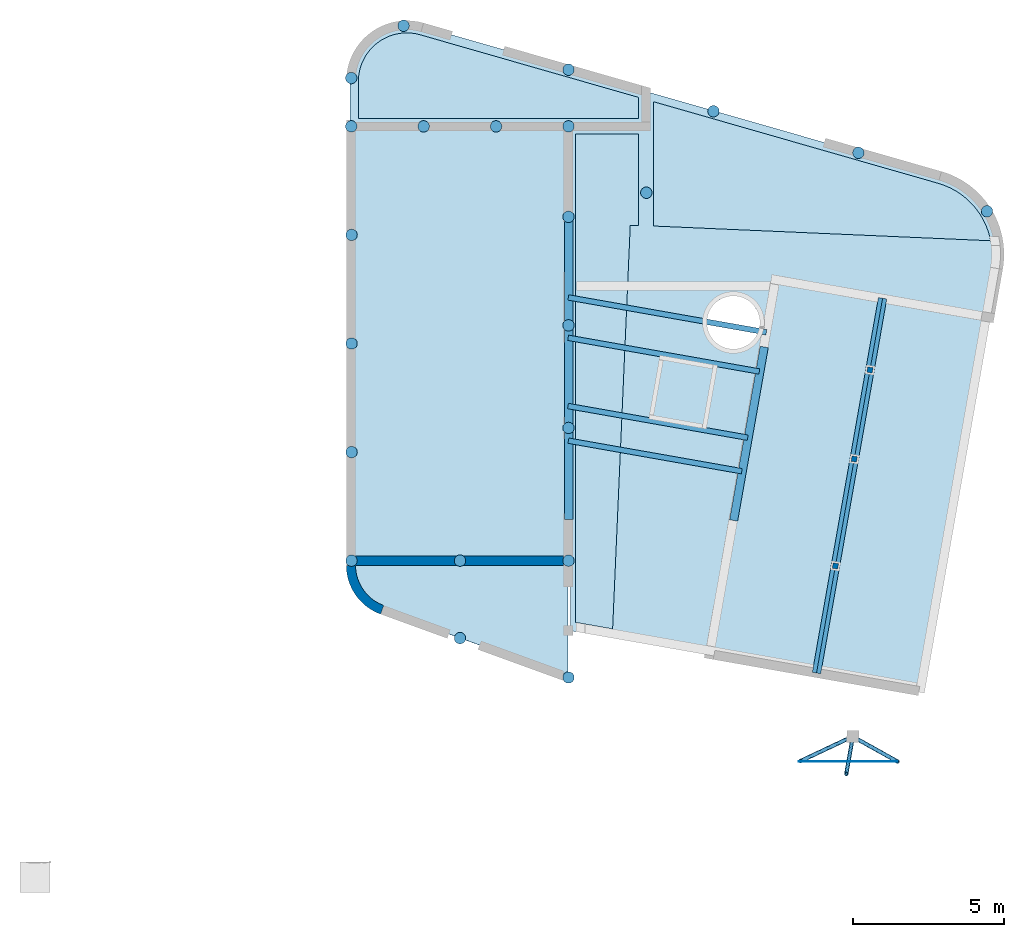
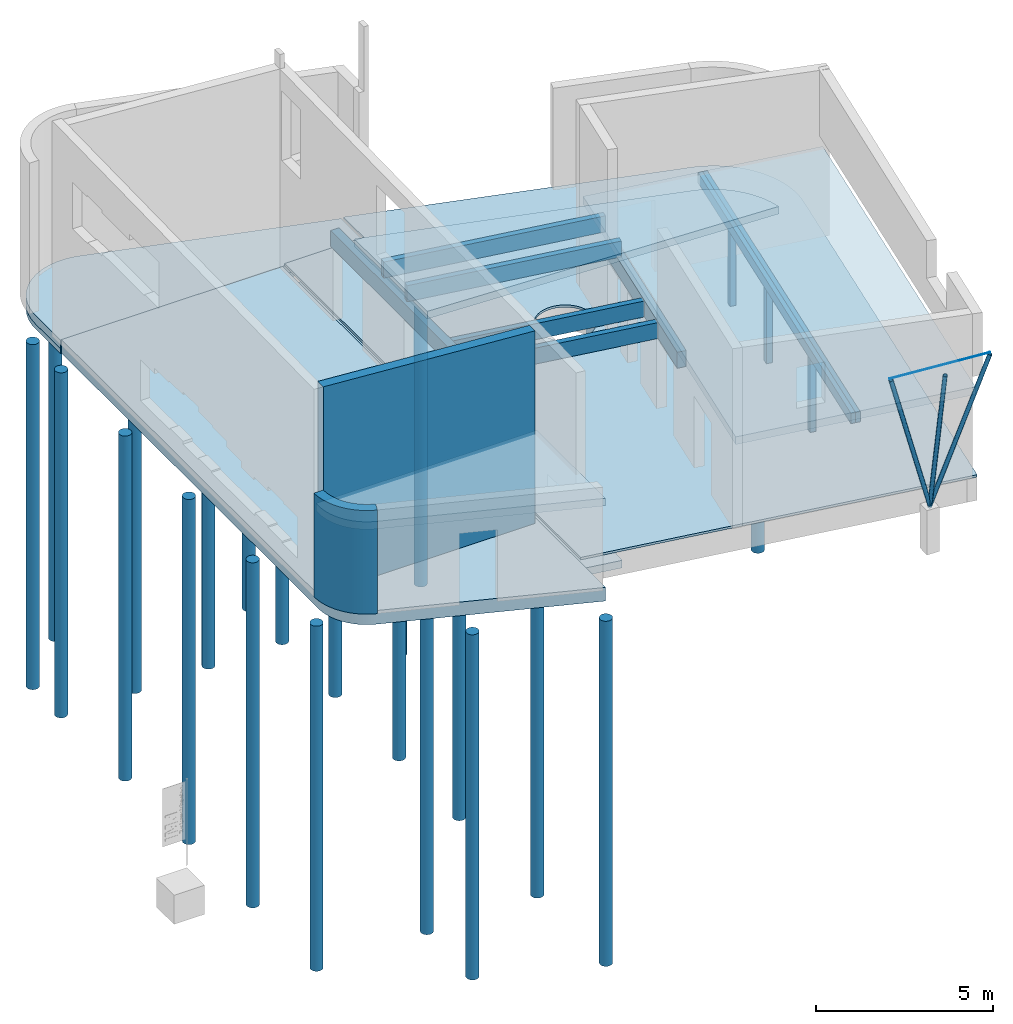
# One storey, part 1 of 3: 22 piles, 12 beams, 8 slabs, 3 columns, 2 walls, 1 opening.
"""IFC2X3 building model written with IfcOpenShell, lengths in millimetres."""

from ifc_helpers import new_model, entity, si_unit, converted_unit, derived_unit, direction, frame, frame_2d, origin, origin_2d_with_axis, place, context, subcontext, project, spatial, polyline, circle_curve, parameter, trimmed, segment, composite_curve, rectangle, circle, hollow_circle, outline, extrude, clip, bounded_halfspace, source, transform, mapped, material, material_list, layer, layer_set, layer_usage, type_object, type_shapes, element, save


model = new_model("IFC2X3")

# Units and contexts
model_context = context("Model", 3, precision=0.01, world=origin(), true_north=direction((6.12303176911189e-17, 1.0)))
context_of_model = context(None, 3, precision=0.01, world=origin(), true_north=direction((6.12303176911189e-17, 1.0)))
body_context = subcontext(model_context, "Body", "Model", "MODEL_VIEW")
ifc_project = project(units=[si_unit("LENGTHUNIT", "METRE", prefix="MILLI"), si_unit("AREAUNIT", "SQUARE_METRE"), si_unit("VOLUMEUNIT", "CUBIC_METRE"), converted_unit("PLANEANGLEUNIT", "DEGREE", entity("IfcRatioMeasure", 0.0174532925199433), si_unit("PLANEANGLEUNIT", "RADIAN"), dimensions=[0, 0, 0, 0, 0, 0, 0]), si_unit("MASSUNIT", "GRAM", prefix="KILO"), derived_unit("MASSDENSITYUNIT", [(si_unit("MASSUNIT", "GRAM", prefix="KILO"), 1), (si_unit("LENGTHUNIT", "METRE"), -3)]), derived_unit("MOMENTOFINERTIAUNIT", [(si_unit("LENGTHUNIT", "METRE"), 4)]), si_unit("TIMEUNIT", "SECOND"), si_unit("FREQUENCYUNIT", "HERTZ"), si_unit("THERMODYNAMICTEMPERATUREUNIT", "DEGREE_CELSIUS"), derived_unit("THERMALTRANSMITTANCEUNIT", [(si_unit("MASSUNIT", "GRAM", prefix="KILO"), 1), (si_unit("THERMODYNAMICTEMPERATUREUNIT", "KELVIN"), -1), (si_unit("TIMEUNIT", "SECOND"), -3)]), derived_unit("VOLUMETRICFLOWRATEUNIT", [(si_unit("LENGTHUNIT", "METRE"), 3), (si_unit("TIMEUNIT", "SECOND"), -1)]), si_unit("ELECTRICCURRENTUNIT", "AMPERE"), si_unit("ELECTRICVOLTAGEUNIT", "VOLT"), si_unit("POWERUNIT", "WATT"), si_unit("FORCEUNIT", "NEWTON", prefix="KILO"), si_unit("ILLUMINANCEUNIT", "LUX"), si_unit("LUMINOUSFLUXUNIT", "LUMEN"), si_unit("LUMINOUSINTENSITYUNIT", "CANDELA"), derived_unit("USERDEFINED", [(si_unit("MASSUNIT", "GRAM", prefix="KILO"), -1), (si_unit("LENGTHUNIT", "METRE"), -2), (si_unit("TIMEUNIT", "SECOND"), 3), (si_unit("LUMINOUSFLUXUNIT", "LUMEN"), 1)]), derived_unit("LINEARVELOCITYUNIT", [(si_unit("LENGTHUNIT", "METRE"), 1), (si_unit("TIMEUNIT", "SECOND"), -1)]), si_unit("PRESSUREUNIT", "PASCAL"), derived_unit("USERDEFINED", [(si_unit("LENGTHUNIT", "METRE"), -2), (si_unit("MASSUNIT", "GRAM", prefix="KILO"), 1), (si_unit("TIMEUNIT", "SECOND"), -2)]), derived_unit("LINEARFORCEUNIT", [(si_unit("MASSUNIT", "GRAM", prefix="KILO"), 1), (si_unit("LENGTHUNIT", "METRE"), 1), (si_unit("TIMEUNIT", "SECOND"), -2), (si_unit("LENGTHUNIT", "METRE"), -1)]), derived_unit("PLANARFORCEUNIT", [(si_unit("MASSUNIT", "GRAM", prefix="KILO"), 1), (si_unit("LENGTHUNIT", "METRE"), 1), (si_unit("TIMEUNIT", "SECOND"), -2), (si_unit("LENGTHUNIT", "METRE"), -2)])], contexts=[model_context, context_of_model])

# Site, building, storey
site_placement = place(None, origin())
site = spatial("IfcSite", under=ifc_project, at=site_placement, Name="Default", CompositionType="ELEMENT")
building_placement = place(site_placement, origin())
building = spatial("IfcBuilding", under=site, at=building_placement, Name="IFc", CompositionType="ELEMENT")
storey_placement = place(building_placement, frame((0.0, 0.0, -70.0)))
storey = spatial("IfcBuildingStorey", under=building, at=storey_placement, Name="00 begane grond b.k. ruwe vloer", CompositionType="ELEMENT", Elevation=-70.0)

# Piles
ifc_material_1 = material(Name="IMd_beton_IHWG")
shared_shape_1 = source(origin(), body_context, "Body", "SweptSolid", [
    extrude(circle(Radius=190.0, at=frame_2d((3.25983355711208e-29, -2.85239492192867e-13), x_axis=(1.0, 0.0))), frame((0.0, 0.0, -13000.0), z_axis=(0.0, 0.0, 1.0), x_axis=(-1.0, 0.0, 0.0)), (0.0, 0.0, 1.0), 11889.9999999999),
])
for number, where in (
    (1, (9984.0, 24397.0, 70.0)),
    (2, (17187.0, 24397.0, 70.0)),
    (3, (17187.0, 26276.860835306, 70.0)),
    (4, (17187.0, 9997.0, 70.0)),
    (5, (9993.0, 9997.0, 70.0)),
    (6, (13590.0, 9997.0, 70.0)),
    (7, (17187.0, 6122.47168214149, 70.0)),
    (8, (19768.6696056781, 22197.0, 70.0)),
    (9, (31063.5922916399, 21580.8594844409, 70.0)),
    (10, (21993.3084796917, 24898.6740562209, 70.0)),
    (11, (26799.6169593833, 23520.4872771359, 70.0)),
    (12, (12385.0, 24397.0, 70.0)),
    (13, (14786.0, 24397.0, 70.0)),
    (14, (13590.0, 7428.04132245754, 70.0)),
    (15, (9984.0, 25998.7181915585, 70.0)),
    (16, (11719.4566353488, 27734.1748269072, 70.0)),
    (17, (17187.0, 14397.0, 70.0)),
    (18, (9993.0, 13597.0, 70.0)),
    (19, (17187.0, 17797.0, 70.0)),
    (20, (9993.0, 17197.0, 70.0)),
    (21, (17187.0, 21397.0, 70.0)),
    (22, (9993.0, 20797.0, 70.0)),
):
    element("IfcPile", number, at=place(storey_placement, frame(where)), inside=storey, material=ifc_material_1, Name="NLRS_17_SFO_TLB_funderingspaal rond_gen_ISR:Type 01_ø380/450_Fd=900kN", ObjectType="NLRS_17_SFO_TLB_funderingspaal rond_gen_ISR:Type 01_ø380/450_Fd=900kN", PredefinedType="NOTDEFINED", context=body_context, shape_type="MappedRepresentation", body=[
        mapped(shared_shape_1, transform((0.0, 0.0, 0.0), scale=1.0)),
    ])

# Columns
ifc_material_2 = material(Name="ISR_Hout")
ifc_material_3 = material(Name="<Unnamed>")
ifc_material_list = material_list([ifc_material_3, ifc_material_2])
column_type = type_object("IfcColumnType", Name="NLRS_28_SC_TLB_kolom vierkant hout_generiek_ISR:180x180 (GL)", PredefinedType="COLUMN", material=ifc_material_list)
shared_shape_2 = source(origin(), body_context, "Body", "SweptSolid", [
    extrude(rectangle(XDim=180.0, YDim=180.0, at=origin_2d_with_axis()), frame((0.0, 0.0, 0.0), z_axis=(0.0, 0.0, 1.0), x_axis=(0.0, -1.0, 0.0)), (0.0, 0.0, 1.0), 2632.00000000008),
])
type_shapes(column_type, [shared_shape_2])
for number, where, z_axis, x_axis, name in (
    (23, (26036.8769212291, 9820.45763454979, 70.0), (0.0, 0.0, 1.0), (0.984807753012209, -0.173648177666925, 0.0), "NLRS_28_SC_TLB_kolom vierkant hout_generiek_ISR:180x180 (GL)"),
    (24, (26662.0103603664, 13365.7655427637, 70.0), (0.0, 0.0, 1.0), (0.984807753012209, -0.173648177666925, 0.0), "NLRS_28_SC_TLB_kolom vierkant hout_generiek_ISR:180x180 (GL)"),
    (25, (27182.9548933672, 16320.1888018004, 70.0), (0.0, 0.0, 1.0), (0.984807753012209, -0.173648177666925, 0.0), "NLRS_28_SC_TLB_kolom vierkant hout_generiek_ISR:180x180 (GL)"),
):
    element("IfcColumn", number, at=place(storey_placement, frame(where, z_axis=z_axis, x_axis=x_axis)), inside=storey, type_object=column_type, material=ifc_material_2, Name=name, ObjectType="NLRS_28_SC_TLB_kolom vierkant hout_generiek_ISR:180x180 (GL)", context=body_context, shape_type="MappedRepresentation", body=[
        mapped(shared_shape_2, transform((0.0, 0.0, 0.0), scale=1.0)),
    ])

# Beams
ifc_material_4 = material(Name="IMd_hout")
beam_type_1 = type_object("IfcBeamType", Name="NLRS_28_SF_LIB_balk hout gelamineerd_generiek_ISR:HB 180x550", PredefinedType="NOTDEFINED")
beam_1_placement = place(storey_placement, frame((17178.0, 15123.5488943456, 3070.0), z_axis=(0.0, 0.0, 1.0), x_axis=(0.984807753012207, -0.173648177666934, 0.0)))
element("IfcBeam", 26, at=beam_1_placement, inside=storey, type_object=beam_type_1, material=ifc_material_4, Name="NLRS_28_SF_LIB_balk hout gelamineerd_generiek_ISR:HB 180x550", ObjectType="NLRS_28_SF_LIB_balk hout gelamineerd_generiek_ISR:HB 180x550", context=body_context, shape_type="SweptSolid", body=[
    extrude(rectangle(XDim=550.0, YDim=179.999999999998, at=frame_2d((2.55795384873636e-13, 0.0), x_axis=(1.0, 0.0))), frame((-6.7245769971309, 0.0, -295.0), z_axis=(1.0, 0.0, 0.0), x_axis=(0.0, 0.0, -1.0)), (0.0, 0.0, 1.0), 6048.88738526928),
])
beam_2_placement = place(storey_placement, frame((17178.0, 13976.9142265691, 3070.0), z_axis=(0.0, 0.0, 1.0), x_axis=(0.984807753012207, -0.173648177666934, 0.0)))
element("IfcBeam", 27, at=beam_2_placement, inside=storey, type_object=beam_type_1, material=ifc_material_4, Name="NLRS_28_SF_LIB_balk hout gelamineerd_generiek_ISR:HB 180x550", ObjectType="NLRS_28_SF_LIB_balk hout gelamineerd_generiek_ISR:HB 180x550", context=body_context, shape_type="SweptSolid", body=[
    extrude(rectangle(XDim=550.0, YDim=179.999999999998, at=frame_2d((2.55795384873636e-13, 0.0), x_axis=(1.0, 0.0))), frame((7.133167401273, 0.0, -295.0), z_axis=(1.0, 0.0, 0.0), x_axis=(0.0, 0.0, -1.0)), (0.0, 0.0, 1.0), 5835.91862036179),
])
beam_3_placement = place(storey_placement, frame((17178.0, 18726.0679760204, 3070.0), z_axis=(0.0, 0.0, 1.0), x_axis=(0.984807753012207, -0.173648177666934, 0.0)))
element("IfcBeam", 28, at=beam_3_placement, inside=storey, type_object=beam_type_1, material=ifc_material_4, Name="NLRS_28_SF_LIB_balk hout gelamineerd_generiek_ISR:HB 180x550", ObjectType="NLRS_28_SF_LIB_balk hout gelamineerd_generiek_ISR:HB 180x550", context=body_context, shape_type="SweptSolid", body=[
    extrude(rectangle(XDim=550.0, YDim=179.999999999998, at=frame_2d((2.55795384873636e-13, 0.0), x_axis=(1.0, 0.0))), frame((4.22572315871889, 0.0, 275.0), z_axis=(1.0, 0.0, 0.0), x_axis=(0.0, 0.0, -1.0)), (0.0, 0.0, 1.0), 6666.50795865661),
])
beam_4_placement = place(storey_placement, frame((17178.0, 17386.6706193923, 3070.0), z_axis=(0.0, 0.0, 1.0), x_axis=(0.984807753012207, -0.173648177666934, 0.0)))
element("IfcBeam", 29, at=beam_4_placement, inside=storey, type_object=beam_type_1, material=ifc_material_4, Name="NLRS_28_SF_LIB_balk hout gelamineerd_generiek_ISR:HB 180x550", ObjectType="NLRS_28_SF_LIB_balk hout gelamineerd_generiek_ISR:HB 180x550", context=body_context, shape_type="SweptSolid", body=[
    extrude(rectangle(XDim=550.0, YDim=180.0, at=frame_2d((2.55795384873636e-13, -1.06581410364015e-12), x_axis=(1.0, 0.0))), frame((-3.02019640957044, 0.0, 275.0), z_axis=(1.0, 0.0, 0.0), x_axis=(0.0, 0.0, -1.0)), (0.0, 0.0, 1.0), 6438.16996807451),
])
beam_type_2 = type_object("IfcBeamType", Name="NLRS_28_SF_LIB_balk hout gelamineerd_generiek_ISR:HB 140x350", PredefinedType="NOTDEFINED")
beam_5_placement = place(storey_placement, frame((27531.2949215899, 18698.8372047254, 3070.0), z_axis=(0.0, 0.0, 1.0), x_axis=(-0.173648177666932, -0.984807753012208, 0.0)))
element("IfcBeam", 30, at=beam_5_placement, inside=storey, type_object=beam_type_2, material=ifc_material_4, Name="NLRS_28_SF_LIB_balk hout gelamineerd_generiek_ISR:HB 140x350", ObjectType="NLRS_28_SF_LIB_balk hout gelamineerd_generiek_ISR:HB 140x350", context=body_context, shape_type="SweptSolid", body=[
    extrude(rectangle(XDim=350.0, YDim=140.000000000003, at=frame_2d((2.70006239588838e-13, -2.32347474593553e-12), x_axis=(1.0, 0.0))), frame((-11.096532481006, 0.0, -193.0), z_axis=(1.0, 0.0, 0.0), x_axis=(0.0, 0.0, -1.0)), (0.0, 0.0, 1.0), 12617.096532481),
])
beam_6_placement = place(storey_placement, frame((27669.1680070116, 18674.526459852, 3070.0), z_axis=(0.0, 0.0, 1.0), x_axis=(-0.173648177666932, -0.984807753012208, 0.0)))
element("IfcBeam", 31, at=beam_6_placement, inside=storey, type_object=beam_type_2, material=ifc_material_4, Name="NLRS_28_SF_LIB_balk hout gelamineerd_generiek_ISR:HB 140x350", ObjectType="NLRS_28_SF_LIB_balk hout gelamineerd_generiek_ISR:HB 140x350", context=body_context, shape_type="SweptSolid", body=[
    extrude(rectangle(XDim=350.0, YDim=140.000000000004, at=frame_2d((2.70006239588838e-13, -2.1387336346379e-12), x_axis=(1.0, 0.0))), frame((-11.0965324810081, 0.0, -193.0), z_axis=(1.0, 0.0, 0.0), x_axis=(0.0, 0.0, -1.0)), (0.0, 0.0, 1.0), 12617.096532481),
])
beam_type_3 = type_object("IfcBeamType", Name="NLRS_28_SF_LIB_balk hout gelamineerd_generiek_ISR:HB 271x550", PredefinedType="NOTDEFINED")
beam_7_placement = place(storey_placement, frame((17195.5000000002, 21908.5704000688, 3070.0), z_axis=(0.0, 0.0, 1.0), x_axis=(0.0, -1.0, 0.0)))
element("IfcBeam", 32, at=beam_7_placement, inside=storey, type_object=beam_type_3, material=ifc_material_4, Name="NLRS_28_SF_LIB_balk hout gelamineerd_generiek_ISR:HB 271x550", ObjectType="NLRS_28_SF_LIB_balk hout gelamineerd_generiek_ISR:HB 271x550", context=body_context, shape_type="SweptSolid", body=[
    extrude(rectangle(XDim=550.0, YDim=271.000000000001, at=frame_2d((-2.55795384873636e-13, -1.08002495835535e-12), x_axis=(1.0, 0.0))), frame((475.070400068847, 0.0, -293.0), z_axis=(1.0, 0.0, 0.0), x_axis=(0.0, 0.0, -1.0)), (0.0, 0.0, 1.0), 10067.0000003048),
])
beam_8_placement = place(storey_placement, frame((23982.4193626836, 18817.1214009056, 3070.0), z_axis=(0.0, 0.0, 1.0), x_axis=(-0.173648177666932, -0.984807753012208, 0.0)))
element("IfcBeam", 33, at=beam_8_placement, inside=storey, type_object=beam_type_3, material=ifc_material_4, Name="NLRS_28_SF_LIB_balk hout gelamineerd_generiek_ISR:HB 271x550", ObjectType="NLRS_28_SF_LIB_balk hout gelamineerd_generiek_ISR:HB 271x550", context=body_context, shape_type="SweptSolid", body=[
    extrude(rectangle(XDim=550.0, YDim=270.999999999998, at=frame_2d((-2.55795384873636e-13, 1.84741111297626e-13), x_axis=(1.0, 0.0))), frame((1761.23141961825, 0.0, -293.0), z_axis=(1.0, 0.0, 0.0), x_axis=(0.0, 0.0, -1.0)), (0.0, 0.0, 1.0), 5842.00000026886),
])
ifc_material_5 = material(Name="IMd_staal")
beam_type_4 = type_object("IfcBeamType", Name="NLRS_28_SF_LIB_balk buis_generiek_ISR:ø133x8", PredefinedType="NOTDEFINED")
beam_9_placement = place(storey_placement, frame((26635.0992597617, 4271.33329883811, 295.845912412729), z_axis=(0.999184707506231, -0.00925127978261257, 0.0392980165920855), x_axis=(-0.0403722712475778, -0.228962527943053, 0.972597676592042)))
element("IfcBeam", 34, at=beam_9_placement, inside=storey, type_object=beam_type_4, material=ifc_material_5, Name="NLRS_28_SF_LIB_balk buis_generiek_ISR:ø133x8", ObjectType="NLRS_28_SF_LIB_balk buis_generiek_ISR:ø133x8", context=body_context, shape_type="SweptSolid", body=[
    extrude(hollow_circle(Radius=66.5000000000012, WallThickness=8.0000000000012, at=origin_2d_with_axis()), frame((363.28505164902, 0.0, 0.0), z_axis=(1.0, 0.0, 0.0), x_axis=(0.0, 0.169027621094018, 0.985611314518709)), (0.0, 0.0, 1.0), 5524.48933970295),
])
beam_10_placement = place(storey_placement, frame((26604.3966613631, 4164.70654542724, 760.957610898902), z_axis=(0.952901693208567, -0.0455033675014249, 0.299846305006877), x_axis=(-0.303279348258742, -0.142971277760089, 0.942115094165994)))
element("IfcBeam", 35, at=beam_10_placement, inside=storey, type_object=beam_type_4, material=ifc_material_5, Name="NLRS_28_SF_LIB_balk buis_generiek_ISR:ø133x8", ObjectType="NLRS_28_SF_LIB_balk buis_generiek_ISR:ø133x8", context=body_context, shape_type="SweptSolid", body=[
    extrude(hollow_circle(Radius=66.5000000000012, WallThickness=8.0000000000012, at=frame_2d((4.90016868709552e-13, -2.16890641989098e-13), x_axis=(1.0, 0.0))), frame((-63.5428285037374, 0.0, 0.0), z_axis=(1.0, 0.0, 0.0), x_axis=(0.0, 0.894854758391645, 0.446357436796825)), (0.0, 0.0, 1.0), 5767.114348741),
])
beam_11_placement = place(storey_placement, frame((26605.9617348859, 4167.04232429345, 690.913737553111), z_axis=(0.962467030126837, 0.0426738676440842, -0.268022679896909), x_axis=(0.271398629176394, -0.151335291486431, 0.950494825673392)))
element("IfcBeam", 36, at=beam_11_placement, inside=storey, type_object=beam_type_4, material=ifc_material_5, Name="NLRS_28_SF_LIB_balk buis_generiek_ISR:ø133x8", ObjectType="NLRS_28_SF_LIB_balk buis_generiek_ISR:ø133x8", context=body_context, shape_type="SweptSolid", body=[
    extrude(hollow_circle(Radius=66.5000000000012, WallThickness=8.0000000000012, at=origin_2d_with_axis()), frame((20.0799682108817, 0.0, 0.0), z_axis=(1.0, 0.0, 0.0), x_axis=(0.0, -0.86093825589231, 0.508709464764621)), (0.0, 0.0, 1.0), 5470.83443942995),
])
beam_type_5 = type_object("IfcBeamType", Name="NLRS_28_SF_LIB_balk staaf_generiek_ISR:ø20", PredefinedType="NOTDEFINED")
beam_12_placement = place(storey_placement, frame((24823.9396735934, 3334.40897624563, 6204.56145820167), z_axis=(0.0728742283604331, 6.86161100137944e-05, 0.997341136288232), x_axis=(0.997340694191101, 0.000939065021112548, -0.0728742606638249)))
element("IfcBeam", 37, at=beam_12_placement, inside=storey, type_object=beam_type_5, material=ifc_material_5, Name="NLRS_28_SF_LIB_balk staaf_generiek_ISR:ø20", ObjectType="NLRS_28_SF_LIB_balk staaf_generiek_ISR:ø20", context=body_context, shape_type="SweptSolid", body=[
    extrude(circle(Radius=10.0000000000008, at=origin_2d_with_axis()), frame((0.0, 0.0, 0.0), z_axis=(1.0, 0.0, 0.0), x_axis=(0.0, -0.99991654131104, -0.0129193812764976)), (0.0, 0.0, 1.0), 3280.0),
])

# Slabs
ifc_material_6 = material(Name="IMd_underlayment")
ifc_layer_1 = layer(ifc_material_6, 18.0)
ifc_layer_2 = layer(ifc_material_4, 246.0)
ifc_layer_set_1 = layer_set([ifc_layer_1, ifc_layer_2], Name="Floor:NLRS_23_FL Houten_balklaag_71x246+underlayment_d=18")
ifc_layer_usage_1 = layer_usage(ifc_layer_set_1, "AXIS3", "POSITIVE", 0.0)
slab_type_1 = type_object("IfcSlabType", Name="Floor:NLRS_23_FL Houten_balklaag_71x246+underlayment_d=18", PredefinedType="FLOOR", material=ifc_layer_set_1)
slab_1_placement = place(storey_placement, origin())
element("IfcSlab", 38, at=slab_1_placement, inside=storey, type_object=slab_type_1, material=ifc_layer_usage_1, Name="Floor:NLRS_23_FL Houten_balklaag_71x246+underlayment_d=18", ObjectType="Floor:NLRS_23_FL Houten_balklaag_71x246+underlayment_d=18", PredefinedType="FLOOR", context=body_context, shape_type="SweptSolid", body=[
    extrude(rectangle(XDim=12600.0, YDim=7200.0, at=origin_2d_with_axis()), frame((26505.7270004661, 12479.4385650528, 3070.0), z_axis=(0.0, 0.0, -1.0), x_axis=(-0.173648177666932, -0.984807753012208, 0.0)), (0.0, 0.0, 1.0), 264.0),
])
ifc_layer_usage_2 = layer_usage(ifc_layer_set_1, "AXIS3", "POSITIVE", 0.0)
slab_type_2 = type_object("IfcSlabType", Name="Floor:NLRS_23_FL Houten_balklaag_71x246+underlayment_d=18", PredefinedType="FLOOR", material=ifc_layer_set_1)
slab_2_placement = place(storey_placement, origin())
element("IfcSlab", 39, at=slab_2_placement, inside=storey, type_object=slab_type_2, material=ifc_layer_usage_2, Name="Floor:NLRS_23_FL Houten_balklaag_71x246+underlayment_d=18", ObjectType="Floor:NLRS_23_FL Houten_balklaag_71x246+underlayment_d=18", PredefinedType="FLOOR", context=body_context, shape_type="SweptSolid", body=[
    extrude(outline(composite_curve([segment(polyline([(973.887794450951, -3081.93892615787), (1130.07446960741, -3081.93892615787)]), True, "CONTINUOUS"), segment(polyline([(1130.07446960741, -3081.93892615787), (1130.07446960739, 4118.06107384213)]), True, "CONTINUOUS"), segment(polyline([(1130.07446960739, 4118.06107384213), (-2743.56181453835, 4118.06107384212)]), True, "CONTINUOUS"), segment(polyline([(-2743.56181453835, 4118.06107384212), (-490.474919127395, -2072.24429536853)]), True, "CONTINUOUS"), segment(trimmed(circle_curve(frame_2d((977.706568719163, -1509.66873235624), x_axis=(-0.933794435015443, -0.357809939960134)), 1572.27483136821), [parameter(0.0)], [parameter(68.8950809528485)], True, "PARAMETER"), True, "CONTINUOUS")], self_intersect=False)), frame((13056.938926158, 8869.92553039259, 3070.0), z_axis=(0.0, 0.0, -1.0), x_axis=(0.0, 1.0, 0.0)), (0.0, 0.0, 1.0), 264.0),
])
ifc_material_7 = material(Name="IMd_beton_druklaag")
ifc_layer_3 = layer(ifc_material_7, 70.0)
ifc_material_8 = material(Name="IMd_beton_prefab_kanaalplaat")
ifc_layer_4 = layer(ifc_material_8, 260.0)
ifc_material_9 = material(Name="IMd_isolatie")
ifc_layer_5 = layer(ifc_material_9, 140.0)
ifc_layer_set_2 = layer_set([ifc_layer_3, ifc_layer_4, ifc_layer_5], Name="Floor:NLRS_23_FL Kanaalplaat_d=260_druklaag_d=70_geisoleerd_rc4")
ifc_layer_usage_3 = layer_usage(ifc_layer_set_2, "AXIS3", "POSITIVE", 0.0)
slab_type_3 = type_object("IfcSlabType", Name="Floor:NLRS_23_FL Kanaalplaat_d=260_druklaag_d=70_geisoleerd_rc4", PredefinedType="FLOOR", material=ifc_layer_set_2)
slab_3_placement = place(storey_placement, origin())
element("IfcSlab", 40, at=slab_3_placement, inside=storey, type_object=slab_type_3, material=ifc_layer_usage_3, Name="Floor:NLRS_23_FL Kanaalplaat_d=260_druklaag_d=70_geisoleerd_rc4", ObjectType="Floor:NLRS_23_FL Kanaalplaat_d=260_druklaag_d=70_geisoleerd_rc4", PredefinedType="FLOOR", context=body_context, shape_type="SweptSolid", body=[
    extrude(outline(composite_curve([segment(polyline([(-4856.45412573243, -3087.92121397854), (9790.16159404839, -3087.92121397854)]), True, "CONTINUOUS"), segment(polyline([(9790.16159404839, -3087.92121397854), (9790.16159404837, 4115.07878602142)]), True, "CONTINUOUS"), segment(polyline([(9790.16159404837, 4115.07878602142), (-8484.36672381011, 4115.07878602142)]), True, "CONTINUOUS"), segment(polyline([(-8484.36672381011, 4115.07878602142), (-6239.50233855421, -2054.31514408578)]), True, "CONTINUOUS"), segment(trimmed(circle_curve(frame_2d((-4759.20667885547, -1515.67827898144), x_axis=(-0.939722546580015, -0.341937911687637)), 1575.2475718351), [parameter(0.0)], [parameter(66.4656250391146)], True, "PARAMETER"), True, "CONTINUOUS")], self_intersect=False)), frame((13062.9212139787, 14606.8384059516, 0.0), z_axis=(0.0, 0.0, -1.0), x_axis=(0.0, 1.0, 0.0)), (0.0, 0.0, 1.0), 470.0),
])

# Slab, opening
ifc_layer_6 = layer(ifc_material_1, 80.0)
ifc_layer_set_3 = layer_set([ifc_layer_6], Name="Floor:NLRS_23_FL Beton_ihwg_d=80")
ifc_layer_usage_4 = layer_usage(ifc_layer_set_3, "AXIS3", "POSITIVE", 0.0)
slab_type_4 = type_object("IfcSlabType", Name="Floor:NLRS_23_FL Beton_ihwg_d=80", PredefinedType="FLOOR", material=ifc_layer_set_3)
slab_4_placement = place(storey_placement, frame((17257.1152941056, 5605.9947554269, -20.0)))
slab_4 = element("IfcSlab", 41, at=slab_4_placement, inside=storey, type_object=slab_type_4, material=ifc_layer_usage_4, Name="Floor:NLRS_23_FL Beton_ihwg_d=80", ObjectType="Floor:NLRS_23_FL Beton_ihwg_d=80", PredefinedType="FLOOR", context=body_context, shape_type="SweptSolid", body=[
    extrude(outline(composite_curve([segment(polyline([(7124.18717939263, -7895.66640337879), (7127.62502700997, 8810.43220719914)]), True, "CONTINUOUS"), segment(polyline([(7127.62502700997, 8810.43220719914), (4545.95547599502, 8810.96347345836)]), True, "CONTINUOUS"), segment(polyline([(4545.95547599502, 8810.96347345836), (4546.19265401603, 9963.52165759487)]), True, "CONTINUOUS"), segment(polyline([(4546.19265401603, 9963.52165759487), (-5162.03672675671, 7181.89361416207)]), True, "CONTINUOUS"), segment(trimmed(circle_curve(frame_2d((-4415.87101907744, 4577.6820757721), x_axis=(-0.999999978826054, 0.000205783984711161)), 2709.0), [parameter(286.000000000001)], [parameter(10.009898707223)], True, "PARAMETER"), True, "CONTINUOUS"), segment(polyline([(-7083.73075307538, 4107.35725215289), (-4603.13627288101, -9963.50993950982)]), True, "CONTINUOUS"), segment(polyline([(-4603.13627288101, -9963.50993950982), (7124.18717939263, -7895.66640337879)]), True, "CONTINUOUS")], self_intersect=False)), frame((7127.62502700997, 9963.50993950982, 80.0), z_axis=(0.0, 0.0, -1.0), x_axis=(-1.0, 0.0, 0.0)), (0.0, 0.0, 1.0), 80.0),
])
opening_placement = place(slab_4_placement, frame((4860.83737280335, 11936.2101993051, 80.0)))
element("IfcOpeningElement", 42, at=opening_placement, cuts=slab_4, Name="Floor:NLRS_23_FL Beton_ihwg_d=80:2", ObjectType="Opening", context=body_context, shape_type="SweptSolid", body=[
    extrude(circle(Radius=879.999999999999, at=frame_2d((536.412543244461, -351.346987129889), x_axis=(1.0, 0.0))), frame((0.0, 0.0, 0.0), z_axis=(0.0, 0.0, -1.0), x_axis=(0.999999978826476, 0.000205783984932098, 0.0)), (0.0, 0.0, 1.0), 80.0),
])

# Slabs
ifc_layer_7 = layer(ifc_material_1, 300.0)
ifc_layer_set_4 = layer_set([ifc_layer_7], Name="Floor:NLRS_23_FL Beton_ihwg_d=300")
ifc_layer_usage_5 = layer_usage(ifc_layer_set_4, "AXIS3", "POSITIVE", 0.0)
slab_type_5 = type_object("IfcSlabType", Name="Floor:NLRS_23_FL Beton_ihwg_d=300", PredefinedType="FLOOR", material=ifc_layer_set_4)
slab_5_placement = place(storey_placement, origin())
element("IfcSlab", 43, at=slab_5_placement, inside=storey, type_object=slab_type_5, material=ifc_layer_usage_5, Name="Floor:NLRS_23_FL Beton_ihwg_d=300", ObjectType="Floor:NLRS_23_FL Beton_ihwg_d=300", PredefinedType="FLOOR", context=body_context, shape_type="SweptSolid", body=[
    extrude(outline(composite_curve([segment(polyline([(-1184.22135581, -4451.30805211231), (212.503037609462, -4451.30805211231)]), True, "CONTINUOUS"), segment(trimmed(circle_curve(frame_2d((212.503037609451, -2459.55652051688), x_axis=(0.0, -1.0)), 1991.75153159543), [parameter(0.0)], [parameter(106.000691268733)], True, "PARAMETER"), True, "CONTINUOUS"), segment(polyline([(2127.09086896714, -1910.53229552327), (28.8488050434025, 5406.57419987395)]), True, "CONTINUOUS"), segment(polyline([(28.8488050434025, 5406.57419987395), (-1184.22135581, 5406.57419987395)]), True, "CONTINUOUS"), segment(polyline([(-1184.22135581, 5406.57419987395), (-1184.22135581, -4451.30805211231)]), True, "CONTINUOUS")], self_intersect=False)), frame((14388.0925198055, 25546.22135581, 0.0), z_axis=(0.0, 0.0, -1.0), x_axis=(0.0, 1.0, 0.0)), (0.0, 0.0, 1.0), 300.0),
])
ifc_layer_8 = layer(ifc_material_1, 170.0)
ifc_layer_set_5 = layer_set([ifc_layer_8], Name="Floor:NLRS_23_FL Beton_ihwg_d=170")
ifc_layer_usage_6 = layer_usage(ifc_layer_set_5, "AXIS3", "POSITIVE", 0.0)
slab_type_6 = type_object("IfcSlabType", Name="Floor:NLRS_23_FL Beton_ihwg_d=170", PredefinedType="FLOOR", material=ifc_layer_set_5)
slab_6_placement = place(storey_placement, origin())
element("IfcSlab", 44, at=slab_6_placement, inside=storey, type_object=slab_type_6, material=ifc_layer_usage_6, Name="Floor:NLRS_23_FL Beton_ihwg_d=170", ObjectType="Floor:NLRS_23_FL Beton_ihwg_d=170", PredefinedType="FLOOR", context=body_context, shape_type="SweptSolid", body=[
    extrude(outline(composite_curve([segment(polyline([(-1184.22135581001, -5406.57419987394), (28.8488050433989, -5406.57419987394)]), True, "CONTINUOUS"), segment(polyline([(28.8488050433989, -5406.57419987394), (2127.09086896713, 1910.53229552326)]), True, "CONTINUOUS"), segment(trimmed(circle_curve(frame_2d((212.503037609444, 2459.55652051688), x_axis=(0.0, -1.0)), 1991.75153159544), [parameter(73.9993087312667)], [parameter(180.0)], True, "PARAMETER"), True, "CONTINUOUS"), segment(polyline([(212.503037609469, 4451.30805211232), (-1184.22135581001, 4451.30805211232)]), True, "CONTINUOUS"), segment(polyline([(-1184.22135581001, 4451.30805211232), (-1184.22135581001, -5406.57419987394)]), True, "CONTINUOUS")], self_intersect=False), holes=[composite_curve([segment(polyline([(-188.172444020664, -5121.57708587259), (-896.221355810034, -5121.57708587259)]), True, "CONTINUOUS"), segment(polyline([(-896.221355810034, -5121.57708587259), (-896.221355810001, 4163.09251980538)]), True, "CONTINUOUS"), segment(polyline([(-896.221355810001, 4163.09251980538), (455.305358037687, 4163.09251980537)]), True, "CONTINUOUS"), segment(trimmed(circle_curve(frame_2d((343.928630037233, 2560.87624362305), x_axis=(0.0, -1.0)), 1606.08274107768), [parameter(73.9999999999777)], [parameter(176.023528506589)], True, "PARAMETER"), False, "CONTINUOUS"), segment(polyline([(1887.79444954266, 2118.17984364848), (-188.172444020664, -5121.57708587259)]), True, "CONTINUOUS")], self_intersect=False)]), frame((14388.0925198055, 25546.22135581, -470.0), z_axis=(0.0, 0.0, 1.0), x_axis=(0.0, 1.0, 0.0)), (0.0, 0.0, 1.0), 170.0),
])
ifc_layer_9 = layer(ifc_material_8, 260.0)
ifc_layer_set_6 = layer_set([ifc_layer_9], Name="Floor:NLRS_23_FL Kanaalplaat_d=260")
ifc_layer_usage_7 = layer_usage(ifc_layer_set_6, "AXIS3", "POSITIVE", 0.0)
slab_type_7 = type_object("IfcSlabType", Name="Floor:NLRS_23_FL Kanaalplaat_d=260", PredefinedType="FLOOR")
slab_7_placement = place(storey_placement, frame((17425.0, 7733.50305750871, -820.0)))
element("IfcSlab", 45, at=slab_7_placement, inside=storey, type_object=slab_type_7, material=ifc_layer_usage_7, Name="Floor:NLRS_23_FL Kanaalplaat_d=260", ObjectType="Floor:NLRS_23_FL Kanaalplaat_d=260", PredefinedType="FLOOR", context=body_context, shape_type="SweptSolid", body=[
    extrude(outline(composite_curve([segment(polyline([(4294.79757035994, 4618.34039636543), (4294.79757035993, 8740.58658070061)]), True, "CONTINUOUS"), segment(polyline([(4294.79757035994, 8740.58658070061), (-5137.89550995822, 6035.80536464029)]), True, "CONTINUOUS"), segment(trimmed(circle_curve(frame_2d((-4458.44942786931, 3666.29528415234), x_axis=(-1.0, 0.0)), 2465.0), [parameter(286.0)], [parameter(349.160337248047)], True, "PARAMETER"), True, "CONTINUOUS"), segment(polyline([(-6879.46717603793, 4129.86627445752), (4294.79757035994, 4618.34039636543)]), True, "CONTINUOUS")], self_intersect=False)), frame((6879.46717603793, 8740.58658070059, 260.0), z_axis=(0.0, 0.0, -1.0), x_axis=(-1.0, 0.0, 0.0)), (0.0, 0.0, 1.0), 260.0),
])
slab_type_8 = type_object("IfcSlabType", Name="Floor:NLRS_23_FL Kanaalplaat_d=260", PredefinedType="FLOOR", material=ifc_layer_set_6)
slab_8_placement = place(storey_placement, frame((17425.0, 7733.50305750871, -820.0)))
element("IfcSlab", 46, at=slab_8_placement, inside=storey, type_object=slab_type_8, material=ifc_layer_usage_7, Name="Floor:NLRS_23_FL Kanaalplaat_d=260:2", ObjectType="Floor:NLRS_23_FL Kanaalplaat_d=260", PredefinedType="FLOOR", context=body_context, shape_type="SweptSolid", body=[
    extrude(outline(polyline([(5654.65859178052, -8740.58658070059), (6879.46717603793, -8524.61978109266), (6879.4671760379, 7675.91036179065), (4794.79757035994, 7675.91036179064), (4794.79757035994, 4640.19749985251), (5069.72822700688, 4640.19749985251), (5654.65859178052, -8740.58658070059)])), frame((6879.46717603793, 8740.58658070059, 260.0), z_axis=(0.0, 0.0, -1.0), x_axis=(-1.0, 0.0, 0.0)), (0.0, 0.0, 1.0), 260.0),
])

# Walls
ifc_layer_10 = layer(ifc_material_6, 18.0)
ifc_layer_11 = layer(ifc_material_4, 270.0)
ifc_layer_12 = layer(ifc_material_6, 18.0)
ifc_layer_set_7 = layer_set([ifc_layer_10, ifc_layer_11, ifc_layer_12], Name="Basic Wall:NLRS_28_WA HSB_d=271")
ifc_layer_usage_8 = layer_usage(ifc_layer_set_7, "AXIS2", "NEGATIVE", 153.0)
wall_type = type_object("IfcWallType", Name="Basic Wall:NLRS_28_WA HSB_d=271", PredefinedType="STANDARD", material=ifc_layer_set_7)
wall_1_placement = place(storey_placement, frame((17025.0, 9997.0, 0.0), z_axis=(0.0, 0.0, 1.0), x_axis=(-1.0, 0.0, 0.0)))
element("IfcWallStandardCase", 47, at=wall_1_placement, inside=storey, type_object=wall_type, material=ifc_layer_usage_8, Name="Basic Wall:NLRS_28_WA HSB_d=271", ObjectType="Basic Wall:NLRS_28_WA HSB_d=271", context=body_context, shape_type="Clipping", body=[
    clip(extrude(rectangle(XDim=6899.99999999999, YDim=306.0, at=frame_2d((3449.99999999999, 1.70530256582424e-13), x_axis=(-1.0, 0.0))), origin(), (0.0, 0.0, 1.0), 7126.41276432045), bounded_halfspace(frame((0.0, -153.0, 6641.56611932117), z_axis=(0.0700806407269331, -0.0200951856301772, -0.997338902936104), x_axis=(0.958704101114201, -0.274902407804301, 0.0729048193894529)), True, frame((0.0, -153.0, 6641.56611932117)), polyline([(0.0, 0.0), (6900.0, 0.0), (6900.0, 306.0), (0.0, 306.0), (0.0, 0.0)]))),
])
ifc_layer_usage_9 = layer_usage(ifc_layer_set_7, "AXIS2", "POSITIVE", -153.0)
wall_2_placement = place(storey_placement, frame((11008.6060698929, 8367.3360673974, 0.0)))
element("IfcWallStandardCase", 48, at=wall_2_placement, inside=storey, type_object=wall_type, material=ifc_layer_usage_9, Name="Basic Wall:NLRS_28_WA HSB_d=271", ObjectType="Basic Wall:NLRS_28_WA HSB_d=271", context=body_context, shape_type="SweptSolid", body=[
    extrude(outline(composite_curve([segment(trimmed(circle_curve(frame_2d((538.636865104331, 1480.29565969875), x_axis=(1.0, 0.0)), 1728.2475718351), [parameter(180.132722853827)], [parameter(250.005013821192)], True, "PARAMETER"), True, "CONTINUOUS"), segment(polyline([(-52.3165004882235, -143.777549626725), (52.3165004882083, 143.777549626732)]), True, "CONTINUOUS"), segment(trimmed(circle_curve(frame_2d((538.636865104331, 1480.29565969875), x_axis=(1.0, 0.0)), 1422.2475718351), [parameter(180.146305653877)], [parameter(250.005013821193)], True, "PARAMETER"), False, "CONTINUOUS"), segment(polyline([(-883.606069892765, 1476.66393260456), (-1189.60606989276, 1476.29226282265)]), True, "CONTINUOUS")], self_intersect=False)), origin(), (0.0, 0.0, 1.0), 3570.0),
])

save(model, "model.ifc")
